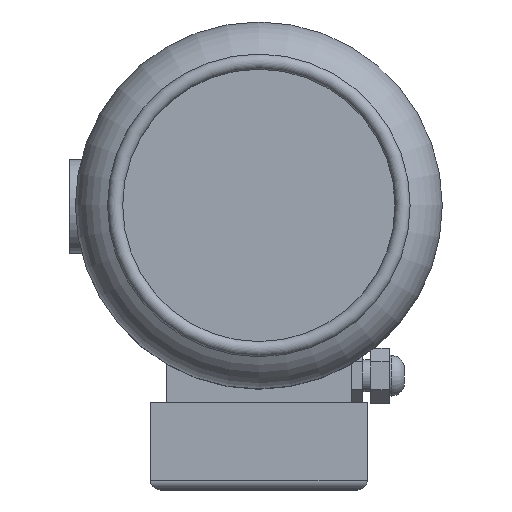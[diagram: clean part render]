
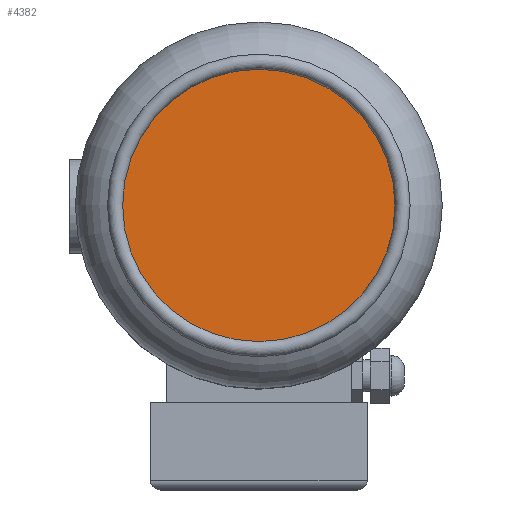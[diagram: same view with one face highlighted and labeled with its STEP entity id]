
A CAD part, top view. The second image highlights one B-rep face of the part: STEP entity #4382.
In plain terms, the highlighted planar face has unit normal (0, 0, 1).
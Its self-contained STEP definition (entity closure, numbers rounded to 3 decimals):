
#358=CIRCLE('',#4837,72.);
#1133=ORIENTED_EDGE('',*,*,#2034,.F.);
#2034=EDGE_CURVE('',#2565,#2565,#358,.T.);
#2565=VERTEX_POINT('',#7920);
#3526=EDGE_LOOP('',(#1133));
#3972=FACE_BOUND('',#3526,.T.);
#4171=PLANE('',#4838);
#4382=ADVANCED_FACE('',(#3972),#4171,.T.);
#4837=AXIS2_PLACEMENT_3D('',#7919,#5691,#5692);
#4838=AXIS2_PLACEMENT_3D('',#7921,#5693,#5694);
#5691=DIRECTION('',(0.,0.,-1.));
#5692=DIRECTION('',(-1.,0.,0.));
#5693=DIRECTION('',(0.,0.,1.));
#5694=DIRECTION('',(1.,0.,0.));
#7919=CARTESIAN_POINT('',(0.,0.,932.26));
#7920=CARTESIAN_POINT('',(-72.,0.,932.26));
#7921=CARTESIAN_POINT('',(-72.,0.,932.26));
